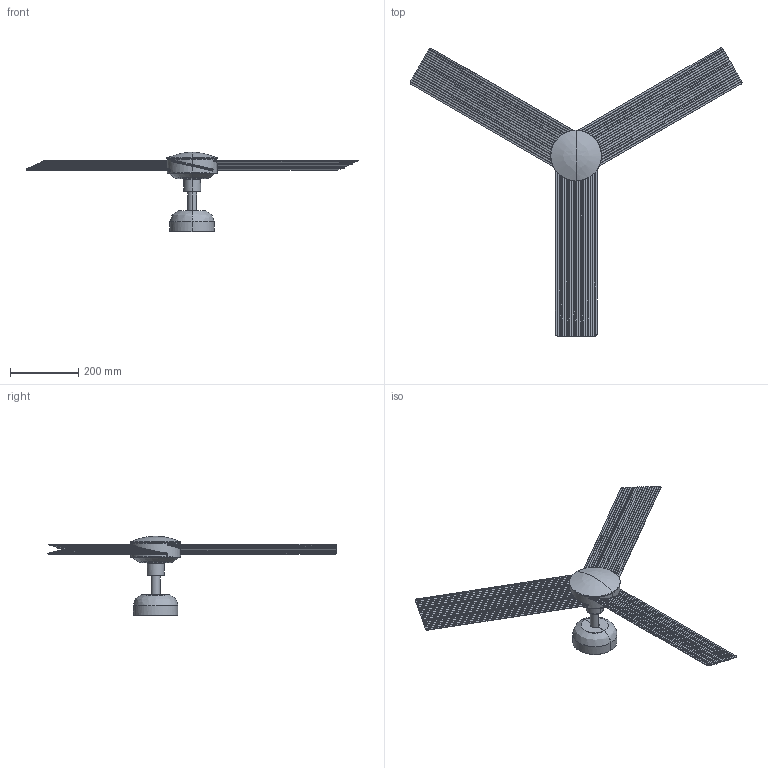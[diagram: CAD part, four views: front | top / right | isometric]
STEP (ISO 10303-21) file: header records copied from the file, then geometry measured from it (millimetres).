
FILE_DESCRIPTION(/* description */ (''),/* implementation_level */ '2;1');
FILE_NAME(/* name */ '34285.step',/* time_stamp */ '2024-04-15T17:06:17+02:00',/* author */ ('RenataManzini'),/* organization */ (''),/* preprocessor_version */ 'ST-DEVELOPER v20',/* originating_system */ 'AutoCAD Mechanical',/* authorisation */ '');
FILE_SCHEMA (('AUTOMOTIVE_DESIGN { 1 0 10303 214 3 1 1 }'));
Length unit declared in the file: millimetre
Products named in the file (4): Product; pieza_34285 - Cruiser-479574-_3D_; pieza_34285 - Cruiser without light-1060_dwg_ABW2C6_____-479573-_3D_; pieza_34285 - Cruiser without light-1060_dwg_ABYP____-479561-_3D_
Assembly tree (5 placements, depth 3):
  Product
    pieza_34285 - Cruiser-479574-_3D_
      pieza_34285 - Cruiser without light-1060_dwg_ABW2C6_____-479573-_3D_
      pieza_34285 - Cruiser without light-1060_dwg_ABYP____-479561-_3D_  x3
Bounding box: 974.74 x 846.12 x 233.02 mm (x, y, z)
Volume: 826814.1 mm3; surface area: 592499 mm2
Topology: 2 solids, 6 shells, 373 faces, 1087 edges, 696 vertices
Faces by surface type: plane 246, cylinder 100, torus 17, bspline 6, cone 4
Entity records: 9736 total; most frequent: CARTESIAN_POINT 3270, ORIENTED_EDGE 1378, DIRECTION 1300, EDGE_CURVE 699, AXIS2_PLACEMENT_3D 453, VERTEX_POINT 444, LINE 394, VECTOR 394
